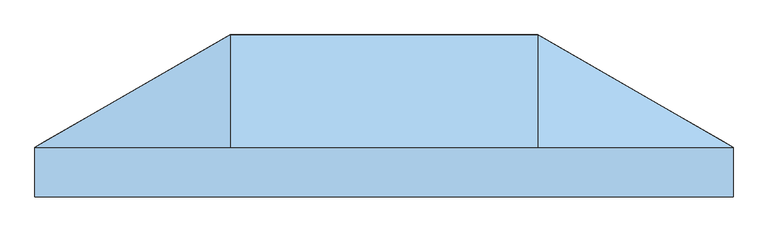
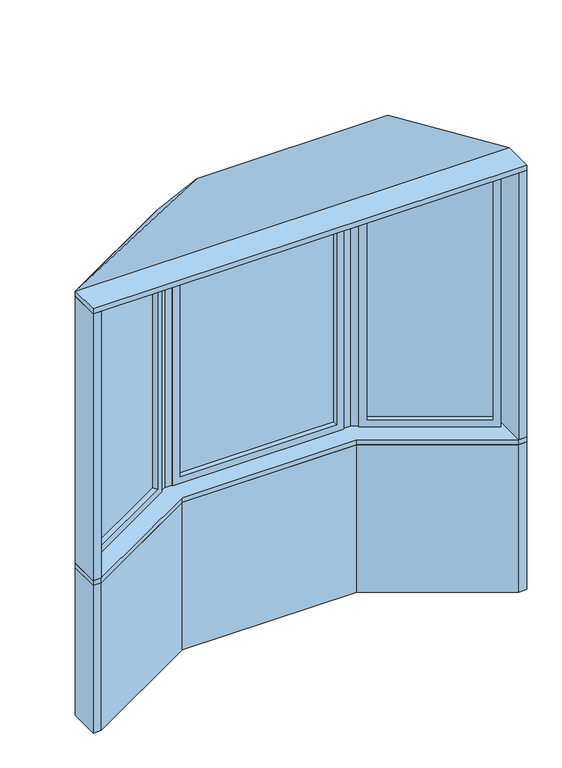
"""IFC4 building model written with IfcOpenShell, lengths in millimetres: window geometry, Pollard_Windows_Tudor Casement Bows and Bays : AML-BAY 30 AFR0614-10-600."""

from ifc_helpers import new_model, si_unit, frame, origin, origin_with_axes, place, context, project, spatial, polyline, outline, extrude, faceted_brep, source, transform, mapped, element, save


def window_7be0c4a4(model_context):
    return source(origin(), model_context, "Body", "SolidModel", [
        extrude(outline(polyline([(1013.112102, 82.0482469), (1010.572102, 77.6488379), (522.3434764, 359.5277664), (524.8834764, 363.9271754), (1013.112102, 82.0482469)])), frame((0.0, 0.0, 823.1628), z_axis=(0.0, 0.0, 1.0), x_axis=(1.0, 0.0, 0.0)), (0.0, 0.0, 1.0), 1353.6704),
        faceted_brep([(1002.1135794, 88.3982469, 835.8628), (1002.1135794, 88.3982469, 2164.1332), (1014.8135794, 110.3952922, 2164.1332), (1014.8135794, 110.3952922, 835.8628), (1010.572102, 77.6488379, 823.1628), (1010.572102, 77.6488379, 2176.8332), (1013.112102, 82.0482469, 2176.8332), (1013.112102, 82.0482469, 823.1628), (986.8735794, 62.0017926, 835.8628), (986.8735794, 62.0017926, 2164.1332), (999.5735794, 83.9988379, 2164.1332), (999.5735794, 83.9988379, 835.8628), (1045.8734073, 92.4628922, 799.998), (1045.8734073, 92.4628922, 2199.998), (1017.9334073, 44.0693926, 2199.998), (1017.9334073, 44.0693926, 799.998), (535.881999, 357.5771754, 2164.1332), (548.581999, 379.5742207, 2164.1332), (522.3434764, 359.5277664, 2176.8332), (524.8834764, 363.9271754, 2176.8332), (520.641999, 331.1807211, 2164.1332), (533.341999, 353.1777664, 2164.1332), (517.5221711, 397.5066207, 2199.998), (489.5821711, 349.1131211, 2199.998), (535.881999, 357.5771754, 835.8628), (548.581999, 379.5742207, 835.8628), (522.3434764, 359.5277664, 823.1628), (524.8834764, 363.9271754, 823.1628), (520.641999, 331.1807211, 835.8628), (533.341999, 353.1777664, 835.8628), (517.5221711, 397.5066207, 799.998), (489.5821711, 349.1131211, 799.998)], [[[0, 1, 2, 3]], [[4, 5, 6, 7]], [[8, 9, 10, 11]], [[12, 13, 14, 15]], [[1, 16, 17, 2]], [[5, 18, 19, 6]], [[9, 20, 21, 10]], [[13, 22, 23, 14]], [[16, 24, 25, 17]], [[18, 26, 27, 19]], [[20, 28, 29, 21]], [[22, 30, 31, 23]], [[24, 0, 3, 25]], [[7, 6, 19, 27], [1, 0, 24, 16]], [[26, 4, 7, 27]], [[5, 4, 26, 18], [11, 10, 21, 29]], [[28, 8, 11, 29]], [[15, 14, 23, 31], [9, 8, 28, 20]], [[30, 12, 15, 31]], [[13, 12, 30, 22], [3, 2, 17, 25]]]),
        extrude(outline(polyline([(-524.8834764, 363.9271754), (-522.3434764, 359.5277664), (-1010.572102, 77.6488379), (-1013.112102, 82.0482469), (-524.8834764, 363.9271754)])), frame((0.0, 0.0, 823.1628), z_axis=(0.0, 0.0, 1.0), x_axis=(1.0, 0.0, 0.0)), (0.0, 0.0, 1.0), 1353.6704),
        faceted_brep([(-533.341999, 353.1777664, 2164.1332), (-533.341999, 353.1777664, 835.8628), (-520.641999, 331.1807211, 835.8628), (-520.641999, 331.1807211, 2164.1332), (-524.8834764, 363.9271754, 2176.8332), (-524.8834764, 363.9271754, 823.1628), (-522.3434764, 359.5277664, 823.1628), (-522.3434764, 359.5277664, 2176.8332), (-548.581999, 379.5742207, 2164.1332), (-548.581999, 379.5742207, 835.8628), (-535.881999, 357.5771754, 835.8628), (-535.881999, 357.5771754, 2164.1332), (-489.5821711, 349.1131211, 2199.998), (-489.5821711, 349.1131211, 799.998), (-517.5221711, 397.5066207, 799.998), (-517.5221711, 397.5066207, 2199.998), (-999.5735794, 83.9988379, 835.8628), (-986.8735794, 62.0017926, 835.8628), (-1013.112102, 82.0482469, 823.1628), (-1010.572102, 77.6488379, 823.1628), (-1014.8135794, 110.3952922, 835.8628), (-1002.1135794, 88.3982469, 835.8628), (-1017.9334073, 44.0693926, 799.998), (-1045.8734073, 92.4628922, 799.998), (-999.5735794, 83.9988379, 2164.1332), (-986.8735794, 62.0017926, 2164.1332), (-1013.112102, 82.0482469, 2176.8332), (-1010.572102, 77.6488379, 2176.8332), (-1014.8135794, 110.3952922, 2164.1332), (-1002.1135794, 88.3982469, 2164.1332), (-1017.9334073, 44.0693926, 2199.998), (-1045.8734073, 92.4628922, 2199.998)], [[[0, 1, 2, 3]], [[4, 5, 6, 7]], [[8, 9, 10, 11]], [[12, 13, 14, 15]], [[1, 16, 17, 2]], [[5, 18, 19, 6]], [[9, 20, 21, 10]], [[13, 22, 23, 14]], [[16, 24, 25, 17]], [[18, 26, 27, 19]], [[20, 28, 29, 21]], [[22, 30, 31, 23]], [[13, 12, 30, 22], [3, 2, 17, 25]], [[24, 0, 3, 25]], [[7, 6, 19, 27], [1, 0, 24, 16]], [[26, 4, 7, 27]], [[5, 4, 26, 18], [11, 10, 21, 29]], [[28, 8, 11, 29]], [[15, 14, 23, 31], [9, 8, 28, 20]], [[30, 12, 15, 31]]]),
        extrude(outline(polyline([(401.0561009, 397.1066207), (401.0561009, 392.0266207), (-401.0561009, 392.0266207), (-401.0561009, 397.1066207), (401.0561009, 397.1066207)])), frame((0.0, 0.0, 823.1628), z_axis=(0.0, 0.0, 1.0), x_axis=(1.0, 0.0, 0.0)), (0.0, 0.0, 1.0), 1353.6704),
        faceted_brep([(388.3561009, 397.1066207, 835.8628), (388.3561009, 397.1066207, 2164.1332), (388.3561009, 422.5066207, 2164.1332), (388.3561009, 422.5066207, 835.8628), (401.0561009, 392.0266207, 823.1628), (401.0561009, 392.0266207, 2176.8332), (401.0561009, 397.1066207, 2176.8332), (401.0561009, 397.1066207, 823.1628), (388.3561009, 366.6266207, 835.8628), (388.3561009, 366.6266207, 2164.1332), (388.3561009, 392.0266207, 2164.1332), (388.3561009, 392.0266207, 835.8628), (424.2209009, 422.5066207, 799.998), (424.2209009, 422.5066207, 2199.998), (424.2209009, 366.6266207, 2199.998), (424.2209009, 366.6266207, 799.998), (-388.3561009, 397.1066207, 2164.1332), (-388.3561009, 422.5066207, 2164.1332), (-401.0561009, 392.0266207, 2176.8332), (-401.0561009, 397.1066207, 2176.8332), (-388.3561009, 366.6266207, 2164.1332), (-388.3561009, 392.0266207, 2164.1332), (-424.2209009, 422.5066207, 2199.998), (-424.2209009, 366.6266207, 2199.998), (-388.3561009, 397.1066207, 835.8628), (-388.3561009, 422.5066207, 835.8628), (-401.0561009, 392.0266207, 823.1628), (-401.0561009, 397.1066207, 823.1628), (-388.3561009, 366.6266207, 835.8628), (-388.3561009, 392.0266207, 835.8628), (-424.2209009, 422.5066207, 799.998), (-424.2209009, 366.6266207, 799.998)], [[[0, 1, 2, 3]], [[4, 5, 6, 7]], [[8, 9, 10, 11]], [[12, 13, 14, 15]], [[1, 16, 17, 2]], [[5, 18, 19, 6]], [[9, 20, 21, 10]], [[13, 22, 23, 14]], [[16, 24, 25, 17]], [[18, 26, 27, 19]], [[20, 28, 29, 21]], [[22, 30, 31, 23]], [[13, 12, 30, 22], [3, 2, 17, 25]], [[24, 0, 3, 25]], [[7, 6, 19, 27], [1, 0, 24, 16]], [[26, 4, 7, 27]], [[5, 4, 26, 18], [11, 10, 21, 29]], [[28, 8, 11, 29]], [[15, 14, 23, 31], [9, 8, 28, 20]], [[30, 12, 15, 31]]]),
        faceted_brep([(1076.5, 74.7806207, 2225.398), (-1076.5, 74.7806207, 2225.398), (-474.2209009, 422.5066207, 2225.398), (474.2209009, 422.5066207, 2225.398), (-474.2209009, 74.7806207, 2606.398), (474.2209009, 74.7806207, 2606.398)], [[[0, 1, 2, 3]], [[1, 4, 2]], [[2, 4, 5, 3]], [[3, 5, 0]], [[0, 5, 4, 1]]]),
        extrude(outline(polyline([(-1076.5, -77.6193793), (-1076.5, 74.7806207), (-474.2209009, 422.5066207), (474.2209009, 422.5066207), (1076.5, 74.7806207), (1076.5, -77.6193793), (-1076.5, -77.6193793)])), frame((0.0, 0.0, 2199.998), z_axis=(0.0, 0.0, 1.0), x_axis=(1.0, 0.0, 0.0)), (0.0, 0.0, 1.0), 25.4),
        extrude(outline(polyline([(-1076.5, 74.7806207), (-1045.8734073, 92.4628922), (-1035.6645431, 74.7806207), (-1035.6645431, -77.6193793), (-1076.5, -77.6193793), (-1076.5, 74.7806207)])), frame((0.0, 0.0, 799.998), z_axis=(0.0, 0.0, 1.0), x_axis=(1.0, 0.0, 0.0)), (0.0, 0.0, 1.0), 1400.0),
        extrude(outline(polyline([(1076.5, -77.6193793), (1035.6645431, -77.6193793), (1035.6645431, 74.7806207), (1045.8734073, 92.4628922), (1076.5, 74.7806207), (1076.5, -77.6193793)])), frame((0.0, 0.0, 799.998), z_axis=(0.0, 0.0, 1.0), x_axis=(1.0, 0.0, 0.0)), (0.0, 0.0, 1.0), 1400.0),
        extrude(outline(polyline([(474.2209009, 422.5066207), (517.5221711, 397.5066207), (492.5221711, 354.2053505), (460.8234413, 372.5066207), (424.2209009, 372.5066207), (424.2209009, 422.5066207), (474.2209009, 422.5066207)])), frame((0.0, 0.0, 799.998), z_axis=(0.0, 0.0, 1.0), x_axis=(1.0, 0.0, 0.0)), (0.0, 0.0, 1.0), 1400.0),
        extrude(outline(polyline([(-474.2209009, 422.5066207), (-424.2209009, 422.5066207), (-424.2209009, 372.5066207), (-460.8234413, 372.5066207), (-492.5221711, 354.2053505), (-517.5221711, 397.5066207), (-474.2209009, 422.5066207)])), frame((0.0, 0.0, 799.998), z_axis=(0.0, 0.0, 1.0), x_axis=(1.0, 0.0, 0.0)), (0.0, 0.0, 1.0), 1400.0),
        extrude(outline(polyline([(-474.2209009, 422.5066207), (474.2209009, 422.5066207), (1076.5, 74.7806207), (1076.5, -77.6193793), (1035.6645431, -77.6193793), (433.385444, 270.1066207), (-433.385444, 270.1066207), (-1035.6645431, -77.6193793), (-1076.5, -77.6193793), (-1076.5, 74.7806207), (-474.2209009, 422.5066207)])), frame((0.0, 0.0, 774.598), z_axis=(0.0, 0.0, 1.0), x_axis=(1.0, 0.0, 0.0)), (0.0, 0.0, 1.0), 25.4),
        extrude(outline(polyline([(-1076.5, 74.7806207), (-474.2209009, 422.5066207), (474.2209009, 422.5066207), (1076.5, 74.7806207), (1076.5, -77.6193793), (1035.6645431, -77.6193793), (433.385444, 270.1066207), (-433.385444, 270.1066207), (-1035.6645431, -77.6193793), (-1076.5, -77.6193793), (-1076.5, 74.7806207)])), origin_with_axes(), (0.0, 0.0, 1.0), 774.598),
    ])


if __name__ == "__main__":
    model = new_model("IFC4")
    model_context = context("Model", 3, world=origin())
    ifc_project = project(units=[si_unit("LENGTHUNIT", "METRE", prefix="MILLI")], contexts=[model_context])
    site = spatial("IfcSite", under=ifc_project)
    building = spatial("IfcBuilding", under=site)
    placement = place(None, origin())
    window_shape = window_7be0c4a4(model_context)
    element("IfcWindow", 1, ObjectType="Pollard_Windows_Tudor Casement Bows and Bays : AML-BAY 30 AFR0614-10-600", at=placement, inside=building, context=model_context, shape_type="MappedRepresentation", body=[
        mapped(window_shape, transform((0.0, 0.0, 0.0), x_axis=(1.0, 0.0, 0.0), y_axis=(0.0, 1.0, 0.0), z_axis=(0.0, 0.0, 1.0))),
    ])
    save(model, "model.ifc")
